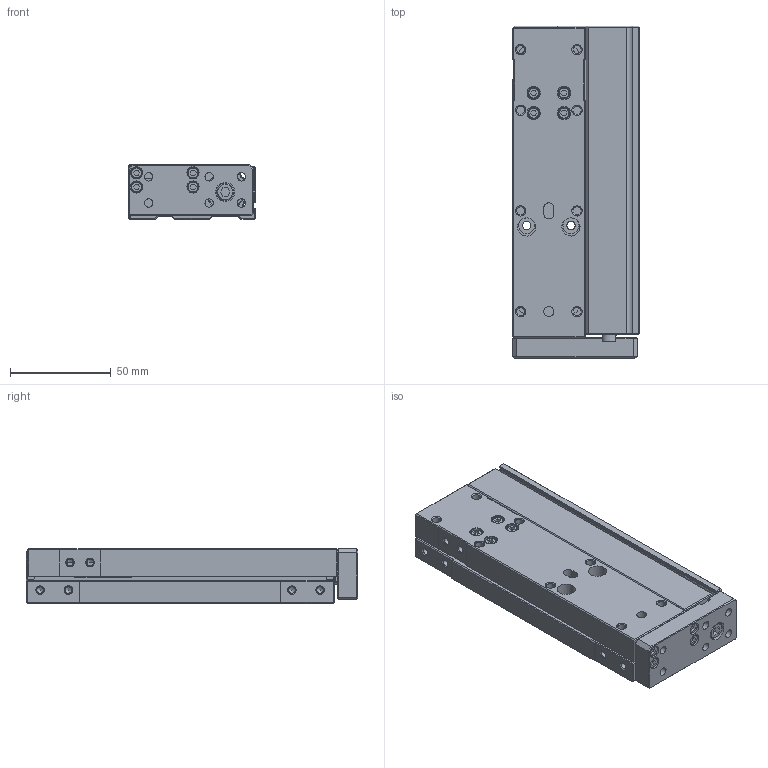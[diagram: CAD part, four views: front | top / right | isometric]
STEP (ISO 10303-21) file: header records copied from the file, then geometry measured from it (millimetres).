
FILE_DESCRIPTION((''),'2;1');
FILE_NAME('I:\3D電子目錄\氣缸\FMR(L)\FMR(L)\FMR16x100.stp','2007-10-15T16:01:52',('Administrator'),(''),'Autodesk Inventor 11','Autodesk Inventor 11','');
FILE_SCHEMA(('AUTOMOTIVE_DESIGN { 1 0 10303 214 1 1 1 1 }'));
Length unit declared in the file: millimetre
Products named in the file (1): FMR16x100
Bounding box: 63 x 164.8 x 27 mm (x, y, z)
Volume: 204864.6 mm3; surface area: 75667.7 mm2
Topology: 13 solids, 13 shells, 564 faces, 1329 edges, 841 vertices
Faces by surface type: plane 344, bspline 113, cylinder 66, cone 41
Full cylindrical faces by diameter (mm): 0.8 x2, 2 x2, 5 x4, 5.5 x8, 6 x1, 6.5 x2, 8 x3, 8.5 x1, 9 x2, 9.95 x1, 11 x1, 13 x1, 13.5 x2, 16 x3, 18 x4, 19.2 x2
Entity records: 16240 total; most frequent: CARTESIAN_POINT 4307, DIRECTION 2341, ORIENTED_EDGE 2232, EDGE_CURVE 1116, EDGE_LOOP 851, AXIS2_PLACEMENT_3D 794, VERTEX_POINT 783, VECTOR 753
